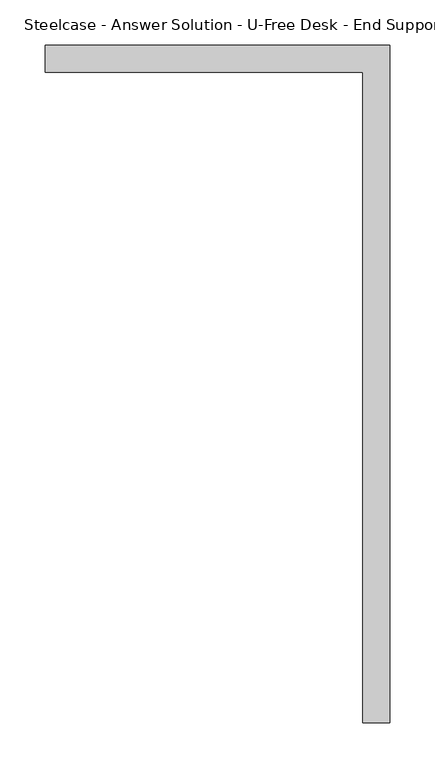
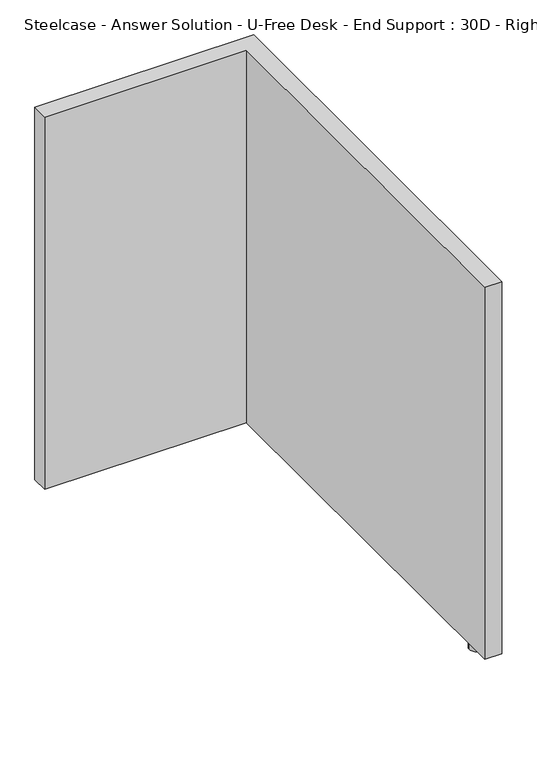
"""IFC4 building model written with IfcOpenShell, lengths in millimetres: furniture geometry, Steelcase - Answer Solution - U-Free Desk - End Support : 30D - Right."""

from ifc_helpers import new_model, si_unit, point, frame, frame_2d, origin, origin_with_axes, place, context, project, spatial, polyline, circle_curve, trimmed, segment, composite_curve, outline, extrude, source, transform, mapped, element, save


def steelcase_answer_solution_u_free_desk_end_support_30d_right_af2553b0(model_context):
    return source(origin(), model_context, "Body", "SweptSolid", [
        extrude(outline(composite_curve([segment(trimmed(circle_curve(frame_2d((369.0626362, -700.8767813)), 12.7), [point((356.3626362, -700.8767813))], [point((381.7626362, -700.8767813))], False, "CARTESIAN"), True, "CONTINUOUS"), segment(trimmed(circle_curve(frame_2d((369.0626362, -700.8767813)), 12.7), [point((381.7626362, -700.8767813))], [point((356.3626362, -700.8767813))], False, "CARTESIAN"), True, "CONTINUOUS")], self_intersect=False)), origin_with_axes(), (0.0, 0.0, 1.0), 12.7000004),
        extrude(outline(polyline([(384.1009381, -2.0011718), (384.1009381, -751.3011718), (354.3067394, -751.3011718), (354.3067394, -31.6936406), (3.1009381, -31.6936406), (3.1009381, -2.0011718), (384.1009381, -2.0011718)])), frame((0.0, 0.0, 12.7000004), z_axis=(0.0, 0.0, 1.0), x_axis=(1.0, 0.0, 0.0)), (0.0, 0.0, 1.0), 685.8),
    ])


if __name__ == "__main__":
    model = new_model("IFC4")
    model_context = context("Model", 3, world=origin())
    ifc_project = project(units=[si_unit("LENGTHUNIT", "METRE", prefix="MILLI")], contexts=[model_context])
    site = spatial("IfcSite", under=ifc_project)
    building = spatial("IfcBuilding", under=site)
    placement = place(None, origin())
    steelcase_answer_solution_u_free_desk_end_support_30d_right_shape = steelcase_answer_solution_u_free_desk_end_support_30d_right_af2553b0(model_context)
    element("IfcFurniture", 1, ObjectType="Steelcase - Answer Solution - U-Free Desk - End Support : 30D - Right", at=placement, inside=building, context=model_context, shape_type="MappedRepresentation", body=[
        mapped(steelcase_answer_solution_u_free_desk_end_support_30d_right_shape, transform((0.0, 0.0, 0.0), x_axis=(1.0, 0.0, 0.0), y_axis=(0.0, 1.0, 0.0), z_axis=(0.0, 0.0, 1.0))),
    ])
    save(model, "model.ifc")
